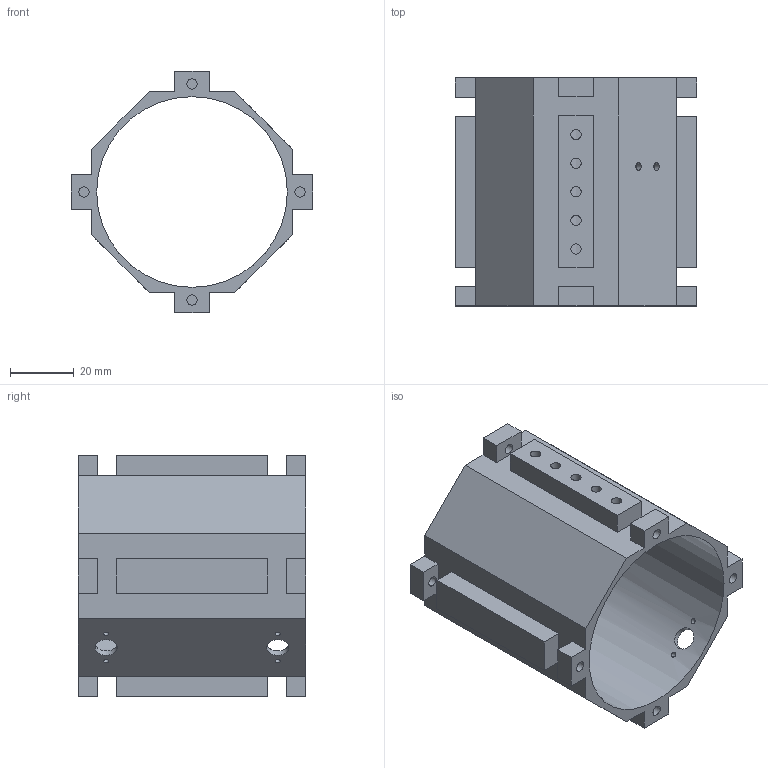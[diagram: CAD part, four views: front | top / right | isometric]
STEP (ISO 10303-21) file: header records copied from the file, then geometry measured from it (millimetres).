
FILE_DESCRIPTION(/* description */ (''),/* implementation_level */ '2;1');
FILE_NAME(/* name */ '',/* time_stamp */ '2026-05-15T16:05:13+08:00',/* author */ ('32769'),/* organization */ (''),/* preprocessor_version */ 'ST-DEVELOPER v20',/* originating_system */ 'Autodesk Inventor 2025',/* authorisation */ '');
FILE_SCHEMA (('AUTOMOTIVE_DESIGN { 1 0 10303 214 3 1 1 }'));
Length unit declared in the file: millimetre
Products named in the file (1): 螺旋谐振腔接地外壳
Bounding box: 76 x 71.73 x 76 mm (x, y, z)
Volume: 51495.4 mm3; surface area: 35021.4 mm2
Topology: 1 solids, 1 shells, 87 faces, 294 edges, 269 vertices
Faces by surface type: plane 62, cylinder 25
Full cylindrical faces by diameter (mm): 1.567 x6, 2.459 x2, 3.242 x13, 7 x3, 60 x1
Entity records: 3714 total; most frequent: CARTESIAN_POINT 1154, ORIENTED_EDGE 512, DIRECTION 439, EDGE_CURVE 256, LINE 193, VECTOR 193, VERTEX_POINT 175, EDGE_LOOP 141
